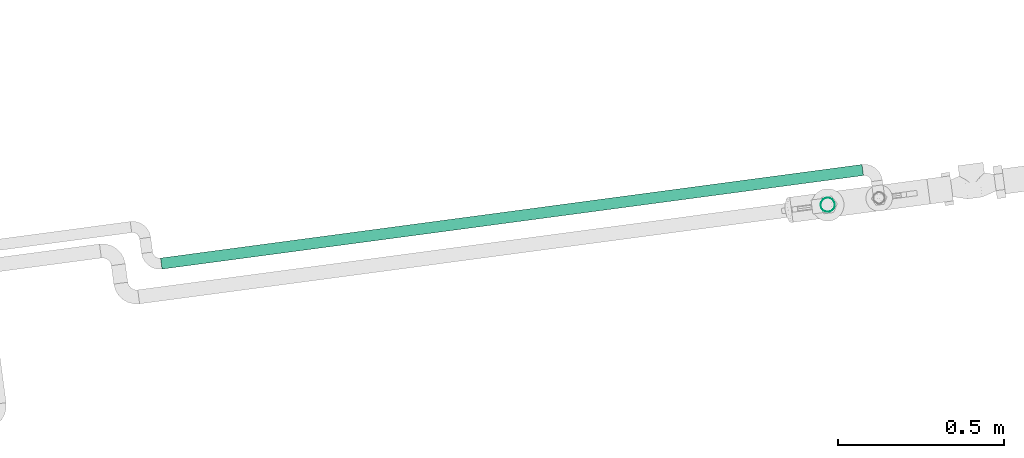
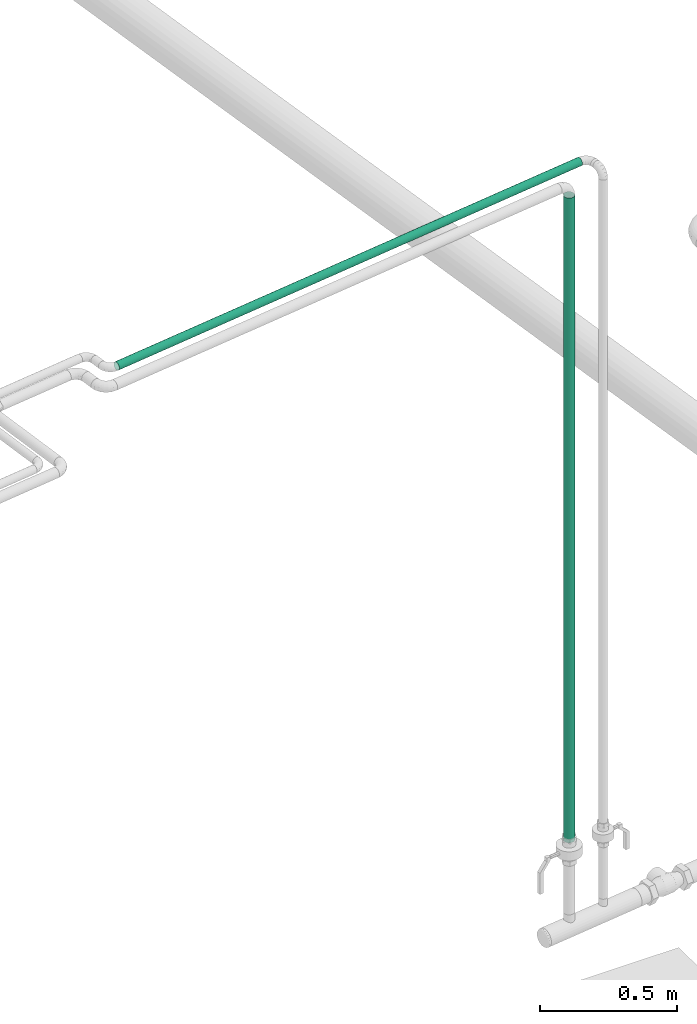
# One storey, part 229 of 374: 2 flow segments.
"""IFC2X3 building model written with IfcOpenShell, lengths in metres."""

from ifc_helpers import new_model, si_unit, direction, origin, place, context, subcontext, project, spatial, open_shell, surface_model, source, transform, mapped, element, save


model = new_model("IFC2X3")

# Units and contexts
model_context = context("Model", 3, precision=1e-05, world=origin(), true_north=direction((-0.4480736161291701, 0.8939966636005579)))
body_context = subcontext(model_context, "Body", "Model", "MODEL_VIEW")
ifc_project = project(units=[si_unit("LENGTHUNIT", "METRE"), si_unit("AREAUNIT", "SQUARE_METRE"), si_unit("VOLUMEUNIT", "CUBIC_METRE"), si_unit("PLANEANGLEUNIT", "RADIAN"), si_unit("THERMODYNAMICTEMPERATUREUNIT", "KELVIN"), si_unit("MASSUNIT", "GRAM", prefix="KILO"), si_unit("TIMEUNIT", "SECOND")], contexts=[model_context])

# Site, building, storey
site_placement = place(None, origin())
site = spatial("IfcSite", under=ifc_project, at=site_placement, Name="Site 1", CompositionType="ELEMENT")
building_placement = place(site_placement, origin())
building = spatial("IfcBuilding", under=site, at=building_placement, Name="Undefined", CompositionType="ELEMENT")
storey_placement = place(building_placement, origin())
storey = spatial("IfcBuildingStorey", under=building, at=storey_placement, Name="Rez de chauss\x8ee", CompositionType="ELEMENT", Elevation=0.0)

# Flow segments
shared_shape_1 = source(origin(), body_context, "Body", "SurfaceModel", [
    surface_model("IfcFaceBasedSurfaceModel", [(0.0, 0.005534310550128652, 0.0), (0.0, 0.0, 0.0), (2.867993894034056, 0.0, 8.8817842e-16), (2.867993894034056, 0.005534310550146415, -2.664535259e-15), (0.0, -0.00534573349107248, -0.0014323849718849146), (2.867993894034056, -0.005345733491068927, -0.001432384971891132), (0.0, -0.010138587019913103, -0.004199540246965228), (2.867993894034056, -0.01013858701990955, -0.004199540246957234), (0.0, -0.01405193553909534, -0.008112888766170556), (2.867993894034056, -0.014051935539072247, -0.00811288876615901), (0.0, -0.016819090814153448, -0.012905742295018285), (2.867993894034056, -0.01681909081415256, -0.012905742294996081), (0.0, -0.018251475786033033, -0.018251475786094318), (2.867993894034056, -0.01825147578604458, -0.018251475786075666), (0.0, -0.0182514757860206, -0.02378578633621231), (2.867993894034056, -0.01825147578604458, -0.023785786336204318), (0.0, -0.01681909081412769, -0.029131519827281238), (2.867993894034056, -0.01681909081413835, -0.02913151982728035), (0.0, -0.014051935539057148, -0.03392437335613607), (2.867993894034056, -0.014051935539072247, -0.03392437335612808), (0.0, -0.010138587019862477, -0.037837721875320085), (2.867993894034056, -0.010138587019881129, -0.03783772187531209), (0.0, -0.005345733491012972, -0.040604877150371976), (2.867993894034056, -0.005345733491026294, -0.04060487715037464), (0.0, 6.4837024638e-14, -0.042037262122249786), (2.867993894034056, 4.2632564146e-14, -0.04203726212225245), (0.0, 0.005534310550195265, -0.04203726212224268), (2.867993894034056, 0.005534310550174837, -0.0420372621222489), (0.0, 0.010880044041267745, -0.04060487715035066), (2.867993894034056, 0.010880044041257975, -0.04060487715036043), (0.0, 0.01567289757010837, -0.03783772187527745), (2.867993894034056, 0.015672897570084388, -0.037837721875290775), (0.0, 0.019586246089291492, -0.033924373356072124), (2.867993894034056, 0.019586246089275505, -0.03392437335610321), (0.0, 0.0223534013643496, -0.029131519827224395), (2.867993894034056, 0.022353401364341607, -0.029131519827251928), (0.0, 0.02378578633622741, -0.023785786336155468), (2.867993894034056, 0.023785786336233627, -0.02378578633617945), (0.0, 0.023785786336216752, -0.01825147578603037), (2.867993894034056, 0.023785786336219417, -0.018251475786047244), (0.0, 0.022353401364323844, -0.012905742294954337), (2.867993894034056, 0.022353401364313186, -0.012905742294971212), (0.0, 0.019586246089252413, -0.008112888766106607), (2.867993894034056, 0.019586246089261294, -0.008112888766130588), (0.0, 0.015672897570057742, -0.004199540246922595), (2.867993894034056, 0.015672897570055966, -0.004199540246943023), (0.0, 0.010880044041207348, -0.0014323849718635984), (2.867993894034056, 0.010880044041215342, -0.0014323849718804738)], [open_shell([[[0, 1, 2, 3]], [[1, 4, 5, 2]], [[4, 6, 7, 5]], [[6, 8, 9, 7]], [[8, 10, 11, 9]], [[10, 12, 13, 11]], [[12, 14, 15, 13]], [[14, 16, 17, 15]], [[16, 18, 19, 17]], [[18, 20, 21, 19]], [[20, 22, 23, 21]], [[22, 24, 25, 23]], [[24, 26, 27, 25]], [[26, 28, 29, 27]], [[28, 30, 31, 29]], [[30, 32, 33, 31]], [[32, 34, 35, 33]], [[34, 36, 37, 35]], [[36, 38, 39, 37]], [[38, 40, 41, 39]], [[40, 42, 43, 41]], [[42, 44, 45, 43]], [[44, 46, 47, 45]], [[46, 0, 3, 47]]])]),
])
flow_segment_1_placement = place(storey_placement, origin())
element("IfcFlowSegment", 1, at=flow_segment_1_placement, inside=storey, Name="Tube acier d'après DIN 2448", ObjectType="Tube acier d'après DIN 2448", context=body_context, shape_type="MappedRepresentation", body=[
    mapped(shared_shape_1, transform((65.93220355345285, 20.357394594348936, 1.0891465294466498), x_axis=(0.0, 0.0, 1.0), y_axis=(0.9654726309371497, 0.26050450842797, 0.0), z_axis=(-0.26050450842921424, 0.965472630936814, 0.0))),
])
shared_shape_2 = source(origin(), body_context, "Body", "SurfaceModel", [
    surface_model("IfcFaceBasedSurfaceModel", [(2.130036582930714, -1.776356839e-15, 0.0), (2.1300365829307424, 0.004398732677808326, 0.0), (0.0, 0.004398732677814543, 0.0), (0.0, 0.0, 0.0), (2.130036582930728, 0.008647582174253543, -0.0011384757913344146), (0.0, 0.00864758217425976, -0.0011384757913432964), (2.130036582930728, 0.012456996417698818, -0.003337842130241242), (0.0, 0.012456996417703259, -0.0033378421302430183), (2.130036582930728, 0.01556737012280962, -0.0064482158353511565), (0.0, 0.015567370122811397, -0.006448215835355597), (2.130036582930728, 0.017766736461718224, -0.01025763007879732), (0.0, 0.01776673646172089, -0.01025763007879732), (2.130036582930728, 0.01890521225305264, -0.014506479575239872), (0.0, 0.018905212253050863, -0.01450647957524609), (2.130036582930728, 0.01890521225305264, -0.01890521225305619), (0.0, 0.018905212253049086, -0.01890521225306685), (2.130036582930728, 0.017766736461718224, -0.023154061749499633), (0.0, 0.017766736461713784, -0.023154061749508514), (2.130036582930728, 0.015567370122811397, -0.026963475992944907), (0.0, 0.01556737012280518, -0.026963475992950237), (2.130036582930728, 0.012456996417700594, -0.03007384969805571), (0.0, 0.012456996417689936, -0.030073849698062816), (2.1300365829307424, 0.008647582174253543, -0.032273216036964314), (0.0, 0.008647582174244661, -0.03227321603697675), (2.130036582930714, 0.004398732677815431, -0.03341169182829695), (0.0, 0.00439873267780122, -0.03341169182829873), (2.130036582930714, -1.776356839e-15, -0.03341169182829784), (0.0, -1.5099033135e-14, -0.03341169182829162), (2.130036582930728, -0.00424884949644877, -0.0322732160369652), (0.0, -0.004248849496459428, -0.03227321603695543), (2.130036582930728, -0.008058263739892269, -0.0300738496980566), (0.0, -0.008058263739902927, -0.03007384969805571), (2.130036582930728, -0.011168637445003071, -0.026963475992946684), (0.0, -0.011168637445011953, -0.02696347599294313), (2.130036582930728, -0.013368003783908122, -0.02315406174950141), (0.0, -0.013368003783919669, -0.023154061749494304), (2.130036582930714, -0.01450647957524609, -0.018905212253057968), (0.0, -0.01450647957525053, -0.01890521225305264), (2.130036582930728, -0.014506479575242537, -0.014506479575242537), (0.0, -0.014506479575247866, -0.014506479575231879), (2.130036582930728, -0.013368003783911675, -0.01025763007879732), (0.0, -0.013368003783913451, -0.010257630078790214), (2.130036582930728, -0.011168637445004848, -0.006448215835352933), (0.0, -0.01116863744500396, -0.0064482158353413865), (2.130036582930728, -0.008058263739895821, -0.0033378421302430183), (0.0, -0.008058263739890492, -0.003337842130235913), (2.130036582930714, -0.004248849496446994, -0.0011384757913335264), (0.0, -0.004248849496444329, -0.00113847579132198)], [open_shell([[[0, 1, 2, 3]], [[1, 4, 5, 2]], [[4, 6, 7, 5]], [[6, 8, 9, 7]], [[8, 10, 11, 9]], [[10, 12, 13, 11]], [[12, 14, 15, 13]], [[14, 16, 17, 15]], [[16, 18, 19, 17]], [[18, 20, 21, 19]], [[20, 22, 23, 21]], [[22, 24, 25, 23]], [[24, 26, 27, 25]], [[26, 28, 29, 27]], [[28, 30, 31, 29]], [[30, 32, 33, 31]], [[32, 34, 35, 33]], [[34, 36, 37, 35]], [[36, 38, 39, 37]], [[38, 40, 41, 39]], [[40, 42, 43, 41]], [[42, 44, 45, 43]], [[44, 46, 47, 45]], [[46, 0, 3, 47]]])]),
])
flow_segment_2_placement = place(storey_placement, origin())
element("IfcFlowSegment", 2, at=flow_segment_2_placement, inside=storey, Name="Tube acier d'après DIN 2448", ObjectType="Tube acier d'après DIN 2448", context=body_context, shape_type="MappedRepresentation", body=[
    mapped(shared_shape_2, transform((63.934153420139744, 20.16116431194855, 4.0219904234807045), x_axis=(0.9912155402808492, 0.13225639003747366, 0.0), y_axis=(-0.1311249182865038, 0.9827355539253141, -0.13052619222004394), z_axis=(-0.017262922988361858, 0.12937959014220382, 0.99144486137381))),
])

save(model, "model.ifc")
